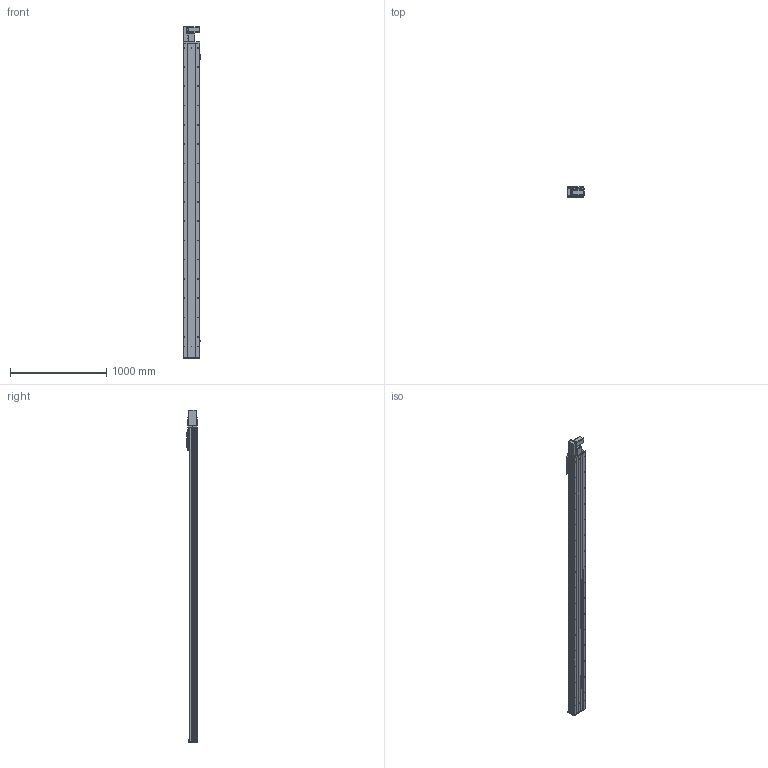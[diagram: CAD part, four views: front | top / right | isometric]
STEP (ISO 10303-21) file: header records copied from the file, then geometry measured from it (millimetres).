
FILE_DESCRIPTION (( 'STEP AP203' ), '1' );
FILE_NAME ('Y170CB-D105-S2950-BL-P400W.STEP', '2020-02-20T01:56:23', ( '微软用户' ), ( '微软中国' ), 'SwSTEP 2.0', 'SolidWorks 2017', '' );
FILE_SCHEMA (( 'CONFIG_CONTROL_DESIGN' ));
Length unit declared in the file: millimetre
Products named in the file (18): Y170CB-陔俋离換覜結え---; 70CB-詩湍--; Y70俋欶BR----; 70B喘謫眊----; Y100-135俋离換覜ん--; 70CB-掛极-; Y1埴倛裔; --70CB --喘謫眊楊擘啣-; Y170CB-D105-S2950-BL-P400W; 70CB-耜裔啣-; 70C--詩湍揤踡え-; B-源倛裔啣; 70CB--耜裔; 17B-耜蚾蟀諉啣----; 70C-雄赽釱-奻-; 0B-萇儂楊擘啣; 0C--雄赽釱俋欶-170; san松下电机400不带刹车----
Assembly tree (21 placements, depth 2):
  Y170CB-D105-S2950-BL-P400W
    B-源倛裔啣
    17B-耜蚾蟀諉啣----
    0B-萇儂楊擘啣
    san松下电机400不带刹车----
    Y70俋欶BR----
    70CB-掛极-
    --70CB --喘謫眊楊擘啣-
    70CB-耜裔啣-  x2
    70C--詩湍揤踡え-  x2
    70CB--耜裔
    70C-雄赽釱-奻-
    0C--雄赽釱俋欶-170
    70CB-詩湍--
    Y100-135俋离換覜ん--  x3
    Y170CB-陔俋离換覜結え---
    70B喘謫眊----
    Y1埴倛裔
Bounding box: 183.5 x 107 x 3447 mm (x, y, z)
Volume: 14215122.1 mm3; surface area: 5136851.6 mm2
Topology: 21 solids, 21 shells, 1087 faces, 2933 edges, 1946 vertices
Faces by surface type: cylinder 599, plane 464, cone 24
Entity records: 34948 total; most frequent: CARTESIAN_POINT 6456, DIRECTION 5686, ORIENTED_EDGE 5348, EDGE_CURVE 2674, AXIS2_PLACEMENT_3D 2104, VERTEX_POINT 1776, LINE 1478, VECTOR 1478
